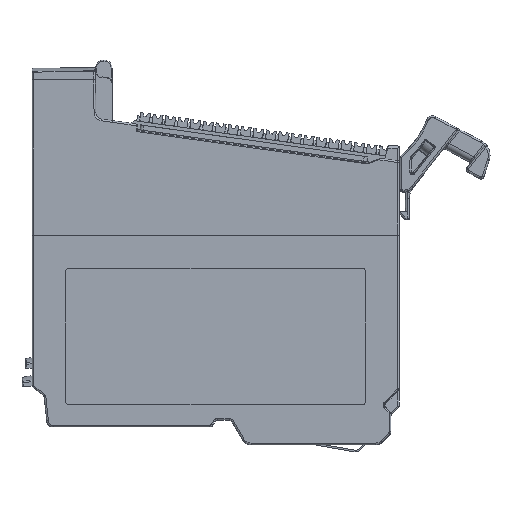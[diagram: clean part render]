
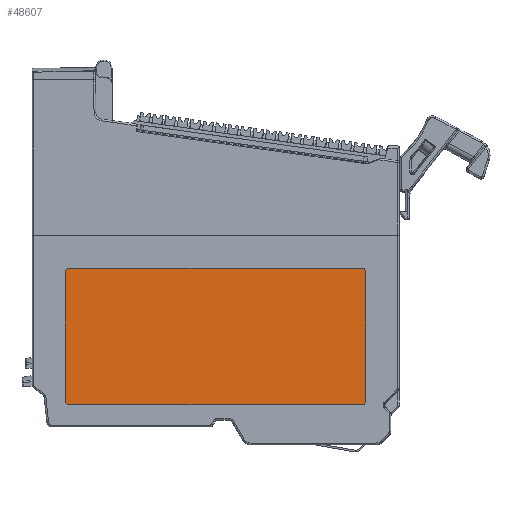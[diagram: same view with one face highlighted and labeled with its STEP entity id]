
A CAD part, left-side view. The second image highlights one B-rep face of the part: STEP entity #48607.
In plain terms, the highlighted planar face has unit normal (-1, 0, 0).
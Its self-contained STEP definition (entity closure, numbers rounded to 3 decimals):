
#2583 = ORIENTED_EDGE ( 'NONE', *, *, #90936, .F. ) ;
#2637 = ORIENTED_EDGE ( 'NONE', *, *, #92755, .F. ) ;
#2662 = ORIENTED_EDGE ( 'NONE', *, *, #91095, .F. ) ;
#2720 = ORIENTED_EDGE ( 'NONE', *, *, #93078, .F. ) ;
#3133 = ORIENTED_EDGE ( 'NONE', *, *, #90376, .F. ) ;
#3435 = CARTESIAN_POINT ( 'NONE',  ( -22.341, -32.564, -74.59 ) ) ;
#3436 = DIRECTION ( 'NONE',  ( 1., 0., 0. ) ) ;
#3437 = DIRECTION ( 'NONE',  ( 0., 0., -1. ) ) ;
#3800 = VECTOR ( 'NONE', #118079, 1000. ) ;
#4790 = VECTOR ( 'NONE', #93975, 1000. ) ;
#6337 = VECTOR ( 'NONE', #93575, 1000. ) ;
#9823 = CARTESIAN_POINT ( 'NONE',  ( -22.341, -32.564, -75.59 ) ) ;
#12329 = EDGE_LOOP ( 'NONE', ( #67225, #2583, #66805, #66462, #2720, #2662, #2637, #3133 ) ) ;
#38504 = CARTESIAN_POINT ( 'NONE',  ( -22.341, 55.436, -35.79 ) ) ;
#38506 = DIRECTION ( 'NONE',  ( 1., 0., 0. ) ) ;
#38507 = DIRECTION ( 'NONE',  ( 0., 0., 1. ) ) ;
#38761 = AXIS2_PLACEMENT_3D ( 'NONE', #107457, #107458, #107459 ) ;
#38814 = LINE ( 'NONE', #38818, #110663 ) ;
#38818 = CARTESIAN_POINT ( 'NONE',  ( -22.341, 56.436, -35.79 ) ) ;
#38819 = DIRECTION ( 'NONE',  ( 0., 0., 1. ) ) ;
#48607 = ADVANCED_FACE ( 'NONE', ( #107418 ), #107432, .T. ) ;
#50178 = CARTESIAN_POINT ( 'NONE',  ( -22.341, 55.436, -74.59 ) ) ;
#50180 = DIRECTION ( 'NONE',  ( 1., 0., 0. ) ) ;
#50181 = DIRECTION ( 'NONE',  ( 0., 0., 1. ) ) ;
#50461 = CARTESIAN_POINT ( 'NONE',  ( -22.341, -32.564, -35.79 ) ) ;
#50463 = DIRECTION ( 'NONE',  ( 1., 0., 0. ) ) ;
#50464 = DIRECTION ( 'NONE',  ( 0., 0., 1. ) ) ;
#66462 = ORIENTED_EDGE ( 'NONE', *, *, #92956, .F. ) ;
#66805 = ORIENTED_EDGE ( 'NONE', *, *, #92890, .F. ) ;
#67225 = ORIENTED_EDGE ( 'NONE', *, *, #93123, .F. ) ;
#90376 = EDGE_CURVE ( 'NONE', #116360, #116544, #118073, .T. ) ;
#90936 = EDGE_CURVE ( 'NONE', #116123, #116079, #93555, .T. ) ;
#91095 = EDGE_CURVE ( 'NONE', #121649, #116101, #93960, .T. ) ;
#92185 = CARTESIAN_POINT ( 'NONE',  ( -22.341, 56.436, -35.79 ) ) ;
#92225 = CARTESIAN_POINT ( 'NONE',  ( -22.341, -32.564, -34.79 ) ) ;
#92265 = CARTESIAN_POINT ( 'NONE',  ( -22.341, 55.436, -75.59 ) ) ;
#92286 = CARTESIAN_POINT ( 'NONE',  ( -22.341, 55.436, -34.79 ) ) ;
#92414 = CARTESIAN_POINT ( 'NONE',  ( -22.341, 56.436, -74.59 ) ) ;
#92444 = CARTESIAN_POINT ( 'NONE',  ( -22.341, -33.564, -35.79 ) ) ;
#92586 = CARTESIAN_POINT ( 'NONE',  ( -22.341, -33.564, -74.59 ) ) ;
#92755 = EDGE_CURVE ( 'NONE', #116544, #121649, #110278, .T. ) ;
#92890 = EDGE_CURVE ( 'NONE', #116043, #116123, #111089, .T. ) ;
#92956 = EDGE_CURVE ( 'NONE', #116325, #116043, #38814, .T. ) ;
#93078 = EDGE_CURVE ( 'NONE', #116101, #116325, #110858, .T. ) ;
#93123 = EDGE_CURVE ( 'NONE', #116079, #116360, #110925, .T. ) ;
#93553 = CARTESIAN_POINT ( 'NONE',  ( -22.341, -32.564, -34.79 ) ) ;
#93555 = LINE ( 'NONE', #93553, #6337 ) ;
#93575 = DIRECTION ( 'NONE',  ( 0., -1., 0. ) ) ;
#93953 = CARTESIAN_POINT ( 'NONE',  ( -22.341, -32.564, -75.59 ) ) ;
#93960 = LINE ( 'NONE', #93953, #4790 ) ;
#93975 = DIRECTION ( 'NONE',  ( 0., 1., 0. ) ) ;
#107418 = FACE_OUTER_BOUND ( 'NONE', #12329, .T. ) ;
#107432 = PLANE ( 'NONE',  #38761 ) ;
#107457 = CARTESIAN_POINT ( 'NONE',  ( -22.341, -32.564, -35.79 ) ) ;
#107458 = DIRECTION ( 'NONE',  ( -1., 0., 0. ) ) ;
#107459 = DIRECTION ( 'NONE',  ( 0., 0., 1. ) ) ;
#110269 = AXIS2_PLACEMENT_3D ( 'NONE', #3435, #3436, #3437 ) ;
#110278 = CIRCLE ( 'NONE', #110269, 1. ) ;
#110640 = AXIS2_PLACEMENT_3D ( 'NONE', #38504, #38506, #38507 ) ;
#110663 = VECTOR ( 'NONE', #38819, 1000. ) ;
#110858 = CIRCLE ( 'NONE', #110895, 1. ) ;
#110895 = AXIS2_PLACEMENT_3D ( 'NONE', #50178, #50180, #50181 ) ;
#110925 = CIRCLE ( 'NONE', #110961, 1. ) ;
#110961 = AXIS2_PLACEMENT_3D ( 'NONE', #50461, #50463, #50464 ) ;
#111089 = CIRCLE ( 'NONE', #110640, 1. ) ;
#116043 = VERTEX_POINT ( 'NONE', #92185 ) ;
#116079 = VERTEX_POINT ( 'NONE', #92225 ) ;
#116101 = VERTEX_POINT ( 'NONE', #92265 ) ;
#116123 = VERTEX_POINT ( 'NONE', #92286 ) ;
#116325 = VERTEX_POINT ( 'NONE', #92414 ) ;
#116360 = VERTEX_POINT ( 'NONE', #92444 ) ;
#116544 = VERTEX_POINT ( 'NONE', #92586 ) ;
#118073 = LINE ( 'NONE', #118076, #3800 ) ;
#118076 = CARTESIAN_POINT ( 'NONE',  ( -22.341, -33.564, -35.79 ) ) ;
#118079 = DIRECTION ( 'NONE',  ( 0., 0., -1. ) ) ;
#121649 = VERTEX_POINT ( 'NONE', #9823 ) ;
